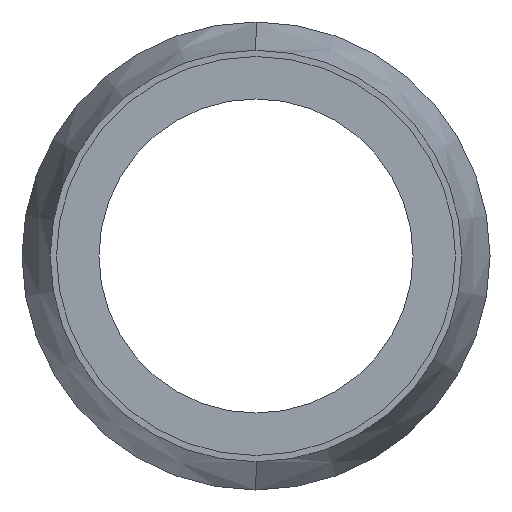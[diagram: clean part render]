
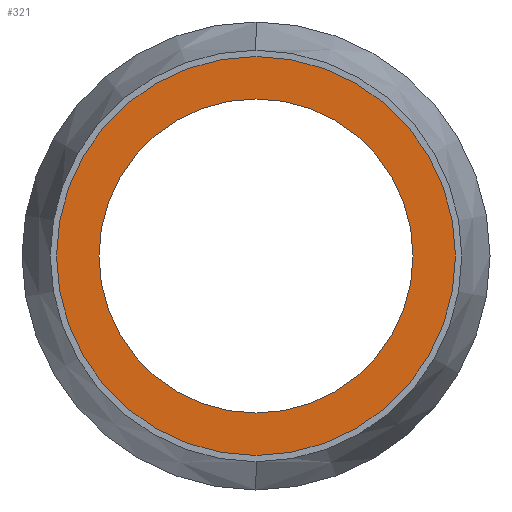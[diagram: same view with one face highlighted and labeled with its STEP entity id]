
A CAD part, left-side view. The second image highlights one B-rep face of the part: STEP entity #321.
In plain terms, the highlighted planar face has unit normal (-1, 0, 0).
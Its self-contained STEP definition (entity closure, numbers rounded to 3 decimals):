
#57 = EDGE_CURVE ( 'NONE', #58, #59, #365, .T. ) ;
#58 = VERTEX_POINT ( 'NONE', #361 ) ;
#59 = VERTEX_POINT ( 'NONE', #360 ) ;
#286 = ORIENTED_EDGE ( 'NONE', *, *, #320, .T. ) ;
#301 = VERTEX_POINT ( 'NONE', #585 ) ;
#320 = EDGE_CURVE ( 'NONE', #301, #335, #759, .T. ) ;
#321 = ADVANCED_FACE ( 'NONE', ( #760, #637 ), #636, .F. ) ;
#322 = EDGE_LOOP ( 'NONE', ( #323, #325 ) ) ;
#323 = ORIENTED_EDGE ( 'NONE', *, *, #324, .T. ) ;
#324 = EDGE_CURVE ( 'NONE', #59, #58, #630, .T. ) ;
#325 = ORIENTED_EDGE ( 'NONE', *, *, #57, .T. ) ;
#326 = EDGE_LOOP ( 'NONE', ( #327, #286 ) ) ;
#327 = ORIENTED_EDGE ( 'NONE', *, *, #334, .T. ) ;
#334 = EDGE_CURVE ( 'NONE', #335, #301, #620, .T. ) ;
#335 = VERTEX_POINT ( 'NONE', #611 ) ;
#360 = CARTESIAN_POINT ( 'NONE',  ( 2.78, 0., -7.5 ) ) ;
#361 = CARTESIAN_POINT ( 'NONE',  ( 2.78, 0., 7.5 ) ) ;
#362 = DIRECTION ( 'NONE',  ( 0., 0., -1. ) ) ;
#363 = DIRECTION ( 'NONE',  ( 1., 0., 0. ) ) ;
#364 = AXIS2_PLACEMENT_3D ( 'NONE', #514, #363, #362 ) ;
#365 = CIRCLE ( 'NONE', #364, 7.5 ) ;
#514 = CARTESIAN_POINT ( 'NONE',  ( 2.78, 0., 0. ) ) ;
#585 = CARTESIAN_POINT ( 'NONE',  ( 2.78, 0., -9.525 ) ) ;
#611 = CARTESIAN_POINT ( 'NONE',  ( 2.78, 0., 9.525 ) ) ;
#612 = DIRECTION ( 'NONE',  ( 0., 0., 1. ) ) ;
#613 = DIRECTION ( 'NONE',  ( -1., 0., 0. ) ) ;
#614 = CARTESIAN_POINT ( 'NONE',  ( 2.78, 0., 0. ) ) ;
#615 = AXIS2_PLACEMENT_3D ( 'NONE', #614, #613, #612 ) ;
#620 = CIRCLE ( 'NONE', #615, 9.525 ) ;
#627 = DIRECTION ( 'NONE',  ( 0., 0., -1. ) ) ;
#628 = DIRECTION ( 'NONE',  ( 1., 0., 0. ) ) ;
#629 = AXIS2_PLACEMENT_3D ( 'NONE', #635, #628, #627 ) ;
#630 = CIRCLE ( 'NONE', #629, 7.5 ) ;
#631 = DIRECTION ( 'NONE',  ( 0., 0., -1. ) ) ;
#632 = DIRECTION ( 'NONE',  ( 1., 0., 0. ) ) ;
#633 = CARTESIAN_POINT ( 'NONE',  ( 2.78, 0., 0. ) ) ;
#634 = AXIS2_PLACEMENT_3D ( 'NONE', #633, #632, #631 ) ;
#635 = CARTESIAN_POINT ( 'NONE',  ( 2.78, 0., 0. ) ) ;
#636 = PLANE ( 'NONE',  #634 ) ;
#637 = FACE_OUTER_BOUND ( 'NONE', #326, .T. ) ;
#638 = DIRECTION ( 'NONE',  ( 0., 0., 1. ) ) ;
#756 = DIRECTION ( 'NONE',  ( -1., 0., 0. ) ) ;
#757 = CARTESIAN_POINT ( 'NONE',  ( 2.78, 0., 0. ) ) ;
#758 = AXIS2_PLACEMENT_3D ( 'NONE', #757, #756, #638 ) ;
#759 = CIRCLE ( 'NONE', #758, 9.525 ) ;
#760 = FACE_BOUND ( 'NONE', #322, .T. ) ;
